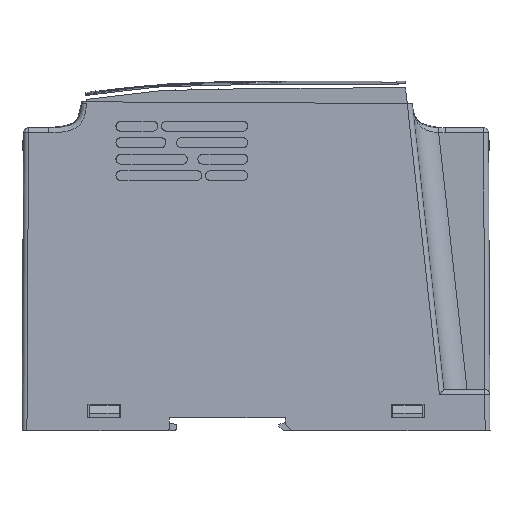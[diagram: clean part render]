
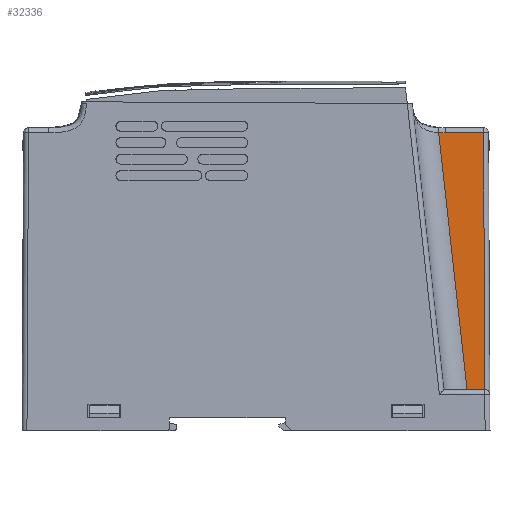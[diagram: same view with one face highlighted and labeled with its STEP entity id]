
A CAD part, left-side view. The second image highlights one B-rep face of the part: STEP entity #32336.
In plain terms, the highlighted planar face has unit normal (-1, 0, 0).
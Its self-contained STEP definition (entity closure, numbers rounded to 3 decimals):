
#8984 = CARTESIAN_POINT ( 'NONE',  ( -25., 6.957, 8.5 ) ) ;
#8986 = CARTESIAN_POINT ( 'NONE',  ( -25., 15.573, 86.541 ) ) ;
#8989 = CARTESIAN_POINT ( 'NONE',  ( -25., 1.953, 86.5 ) ) ;
#8991 = CARTESIAN_POINT ( 'NONE',  ( -25., 13.599, 86.5 ) ) ;
#9007 = CARTESIAN_POINT ( 'NONE',  ( -25., 1.541, 8.5 ) ) ;
#32149 = EDGE_CURVE ( 'NONE', #39735, #39737, #68638, .T. ) ;
#32156 = EDGE_CURVE ( 'NONE', #39742, #39740, #53130, .T. ) ;
#32167 = EDGE_CURVE ( 'NONE', #39737, #39742, #53136, .T. ) ;
#32176 = EDGE_CURVE ( 'NONE', #39758, #39735, #53142, .T. ) ;
#32177 = EDGE_CURVE ( 'NONE', #39740, #39758, #53144, .T. ) ;
#32336 = ADVANCED_FACE ( 'NONE', ( #65812 ), #70018, .F. ) ;
#36649 = ORIENTED_EDGE ( 'NONE', *, *, #32177, .F. ) ;
#36650 = ORIENTED_EDGE ( 'NONE', *, *, #32149, .F. ) ;
#36651 = ORIENTED_EDGE ( 'NONE', *, *, #32176, .F. ) ;
#36652 = ORIENTED_EDGE ( 'NONE', *, *, #32156, .F. ) ;
#36653 = ORIENTED_EDGE ( 'NONE', *, *, #32167, .F. ) ;
#36757 = EDGE_LOOP ( 'NONE', ( #36650, #36651, #36649, #36652, #36653 ) ) ;
#39735 = VERTEX_POINT ( 'NONE', #8984 ) ;
#39737 = VERTEX_POINT ( 'NONE', #8986 ) ;
#39740 = VERTEX_POINT ( 'NONE', #8989 ) ;
#39742 = VERTEX_POINT ( 'NONE', #8991 ) ;
#39758 = VERTEX_POINT ( 'NONE', #9007 ) ;
#53130 = B_SPLINE_CURVE_WITH_KNOTS ( 'NONE', 3,
 ( #68821, #68822, #68823, #68824 ),
 .UNSPECIFIED., .F., .F.,
 ( 4, 4 ),
 ( 0., 1. ),
 .UNSPECIFIED. ) ;
#53136 =( BOUNDED_CURVE ( )  B_SPLINE_CURVE ( 3, ( #68943, #68944, #68945, #68946, #68947, #68948 ),
 .UNSPECIFIED., .F., .F. ) 
 B_SPLINE_CURVE_WITH_KNOTS ( ( 4, 1, 1, 4 ),
 ( 0., 0.156, 0.615, 1. ),
 .UNSPECIFIED. ) 
 CURVE ( )  GEOMETRIC_REPRESENTATION_ITEM ( )  RATIONAL_B_SPLINE_CURVE ( ( 1.172, 1.172, 1.172, 1.172, 1.172, 1.172 ) ) 
 REPRESENTATION_ITEM ( '' )  );
#53142 = B_SPLINE_CURVE_WITH_KNOTS ( 'NONE', 3,
 ( #69108, #69109, #69110, #69111 ),
 .UNSPECIFIED., .F., .F.,
 ( 4, 4 ),
 ( 0., 1. ),
 .UNSPECIFIED. ) ;
#53144 = B_SPLINE_CURVE_WITH_KNOTS ( 'NONE', 3,
 ( #69112, #69113, #69114, #69115 ),
 .UNSPECIFIED., .F., .F.,
 ( 4, 4 ),
 ( 0., 1. ),
 .UNSPECIFIED. ) ;
#65545 = VECTOR ( 'NONE', #68640, 1000. ) ;
#65812 = FACE_OUTER_BOUND ( 'NONE', #36757, .T. ) ;
#65815 = AXIS2_PLACEMENT_3D ( 'NONE', #70019, #70020, #70021 ) ;
#68638 = LINE ( 'NONE', #68639, #65545 ) ;
#68639 = CARTESIAN_POINT ( 'NONE',  ( -25., 6.957, 8.5 ) ) ;
#68640 = DIRECTION ( 'NONE',  ( 0., 0.11, 0.994 ) ) ;
#68821 = CARTESIAN_POINT ( 'NONE',  ( -25., 13.599, 86.5 ) ) ;
#68822 = CARTESIAN_POINT ( 'NONE',  ( -25., 9.717, 86.5 ) ) ;
#68823 = CARTESIAN_POINT ( 'NONE',  ( -25., 5.835, 86.5 ) ) ;
#68824 = CARTESIAN_POINT ( 'NONE',  ( -25., 1.953, 86.5 ) ) ;
#68943 = CARTESIAN_POINT ( 'NONE',  ( -25., 15.573, 86.541 ) ) ;
#68944 = CARTESIAN_POINT ( 'NONE',  ( -25., 15.471, 86.536 ) ) ;
#68945 = CARTESIAN_POINT ( 'NONE',  ( -25., 15.065, 86.52 ) ) ;
#68946 = CARTESIAN_POINT ( 'NONE',  ( -25., 14.407, 86.504 ) ) ;
#68947 = CARTESIAN_POINT ( 'NONE',  ( -25., 13.852, 86.5 ) ) ;
#68948 = CARTESIAN_POINT ( 'NONE',  ( -25., 13.599, 86.5 ) ) ;
#69108 = CARTESIAN_POINT ( 'NONE',  ( -25., 1.541, 8.5 ) ) ;
#69109 = CARTESIAN_POINT ( 'NONE',  ( -25., 3.347, 8.5 ) ) ;
#69110 = CARTESIAN_POINT ( 'NONE',  ( -25., 5.152, 8.5 ) ) ;
#69111 = CARTESIAN_POINT ( 'NONE',  ( -25., 6.957, 8.5 ) ) ;
#69112 = CARTESIAN_POINT ( 'NONE',  ( -25., 1.953, 86.5 ) ) ;
#69113 = CARTESIAN_POINT ( 'NONE',  ( -25., 1.816, 60.5 ) ) ;
#69114 = CARTESIAN_POINT ( 'NONE',  ( -25., 1.678, 34.5 ) ) ;
#69115 = CARTESIAN_POINT ( 'NONE',  ( -25., 1.541, 8.5 ) ) ;
#70018 = PLANE ( 'NONE',  #65815 ) ;
#70019 = CARTESIAN_POINT ( 'NONE',  ( -25., 8.557, 47.52 ) ) ;
#70020 = DIRECTION ( 'NONE',  ( 1., 0., 0. ) ) ;
#70021 = DIRECTION ( 'NONE',  ( 0., 0., -1. ) ) ;
